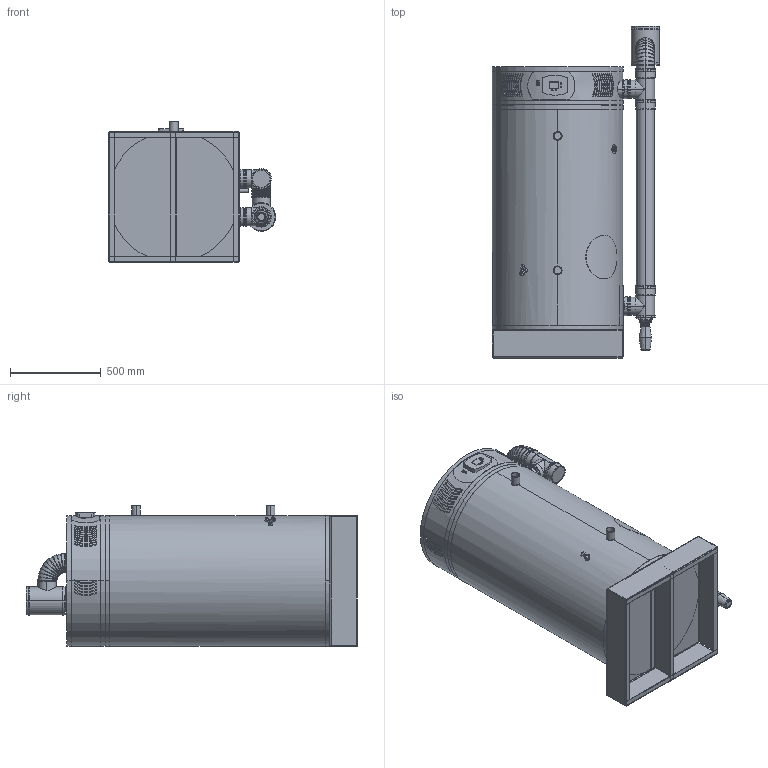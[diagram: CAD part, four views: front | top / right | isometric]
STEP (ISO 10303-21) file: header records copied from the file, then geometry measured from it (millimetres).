
FILE_DESCRIPTION (( 'STEP AP214' ), '1' );
FILE_NAME ('ECOflo 230 met plint.STEP', '2016-04-08T09:37:45', ( 'PI' ), ( '' ), 'SwSTEP 2.0', 'SolidWorks 2013', '' );
FILE_SCHEMA (( 'AUTOMOTIVE_DESIGN' ));
Length unit declared in the file: millimetre
Products named in the file (7): EF 60-100T Boiler connect 100_100-150 L_EF 60T; EF 60-100T Boiler connection 100 top; ECOflo 230; ECOflo 230 met plint; Plint ECOflo; siphon PP 32-40; EF 60-100T Boiler connection 100 bottom
Assembly tree (6 placements, depth 2):
  ECOflo 230 met plint
    ECOflo 230
    EF 60-100T Boiler connection 100 top
    EF 60-100T Boiler connect 100_100-150 L_EF 60T
    EF 60-100T Boiler connection 100 bottom
    siphon PP 32-40
    Plint ECOflo
Bounding box: 921.5 x 1826.22 x 774 mm (x, y, z)
Volume: 592484096.6 mm3; surface area: 8432763.2 mm2
Topology: 14 solids, 15 shells, 1557 faces, 3695 edges, 2195 vertices
Faces by surface type: cylinder 730, plane 389, torus 218, cone 96, sphere 68, bspline 56
Entity records: 66165 total; most frequent: CARTESIAN_POINT 28029, DIRECTION 7382, ORIENTED_EDGE 7270, EDGE_CURVE 3635, AXIS2_PLACEMENT_3D 3026, VERTEX_POINT 2187, EDGE_LOOP 1670, FACE_OUTER_BOUND 1557
